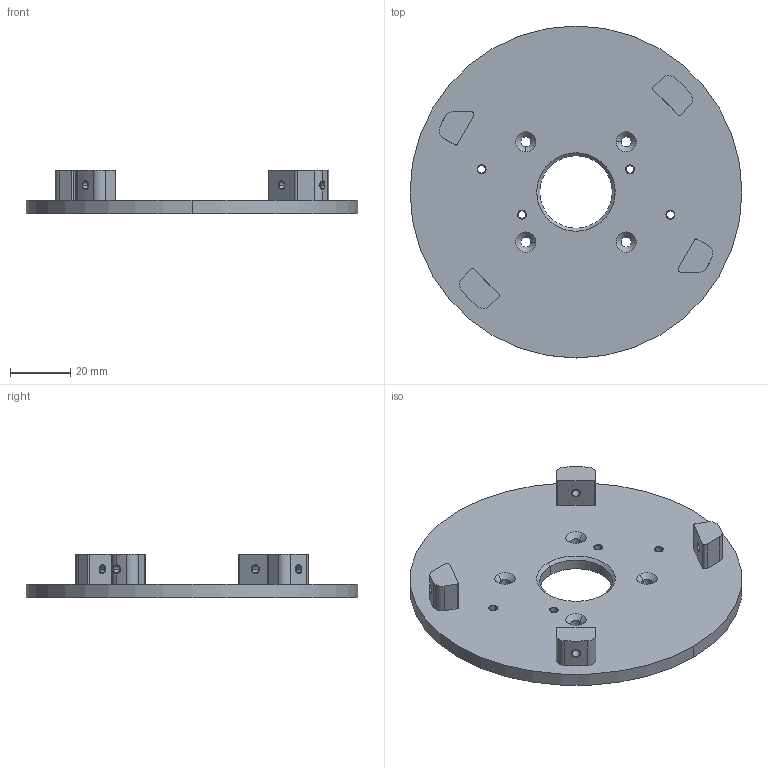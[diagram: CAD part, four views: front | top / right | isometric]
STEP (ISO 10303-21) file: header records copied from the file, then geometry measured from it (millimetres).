
FILE_DESCRIPTION((''),'2;1');
FILE_NAME('ART4BODYBOT_V-2','2022-08-24T09:29:39',('domen.bizjak'),('Audax d.o.o.'),'CREO PARAMETRIC BY PTC INC, 2021184','CREO PARAMETRIC BY PTC INC, 2021184','');
FILE_SCHEMA(('AP242_MANAGED_MODEL_BASED_3D_ENGINEERING_MIM_LF { 1 0 10303 442 1 1 4 }'));
Length unit declared in the file: millimetre
Products named in the file (1): ART4BODYBOT_V-2
Bounding box: 110 x 110 x 14.5 mm (x, y, z)
Volume: 43819.8 mm3; surface area: 22309.2 mm2
Topology: 1 solids, 9 shells, 92 faces, 296 edges, 230 vertices
Faces by surface type: cylinder 64, plane 18, cone 10
Entity records: 6884 total; most frequent: CARTESIAN_POINT 792, DIRECTION 648, ORIENTED_EDGE 480, PRESENTATION_STYLE_ASSIGNMENT 390, COLOUR_RGB 322, STYLED_ITEM 314, CURVE_STYLE 299, EDGE_CURVE 258
